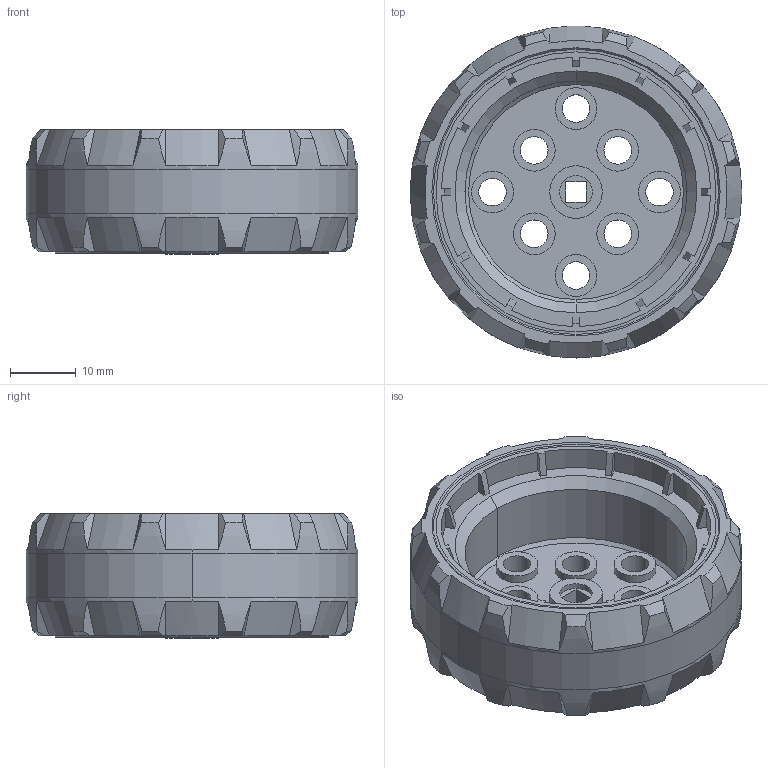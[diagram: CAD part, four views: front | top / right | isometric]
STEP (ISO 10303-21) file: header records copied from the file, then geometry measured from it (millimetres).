
FILE_DESCRIPTION (( 'STEP AP214' ), '1' );
FILE_NAME ('228-2500-1383.STEP', '2021-05-17T20:38:04', ( '' ), ( '' ), 'SwSTEP 2.0', 'SolidWorks 2019', '' );
FILE_SCHEMA (( 'AUTOMOTIVE_DESIGN' ));
Length unit declared in the file: millimetre
Products named in the file (4): 228-2500-1383.STEP; 228-2500-1382 Rev1_228-5573-1382.STEP; 228-2500-1383; 228-2500-1383-OVERMOLD Rev1_228-3201-1383-OVERMOLD.STEP
Assembly tree (3 placements, depth 3):
  228-2500-1383
    228-2500-1383.STEP
      228-2500-1382 Rev1_228-5573-1382.STEP
      228-2500-1383-OVERMOLD Rev1_228-3201-1383-OVERMOLD.STEP
Bounding box: 50.5 x 50.5 x 18.93 mm (x, y, z)
Volume: 16442.7 mm3; surface area: 24308.6 mm2
Topology: 2 solids, 2 shells, 848 faces, 2709 edges, 1802 vertices
Faces by surface type: plane 533, cylinder 170, cone 117, bspline 24, torus 4
Entity records: 31059 total; most frequent: CARTESIAN_POINT 6558, ORIENTED_EDGE 5418, DIRECTION 5033, EDGE_CURVE 2709, VERTEX_POINT 1802, AXIS2_PLACEMENT_3D 1797, LINE 1439, VECTOR 1439
